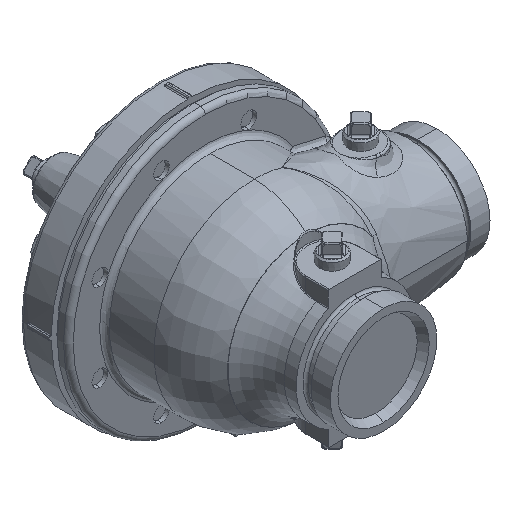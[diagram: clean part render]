
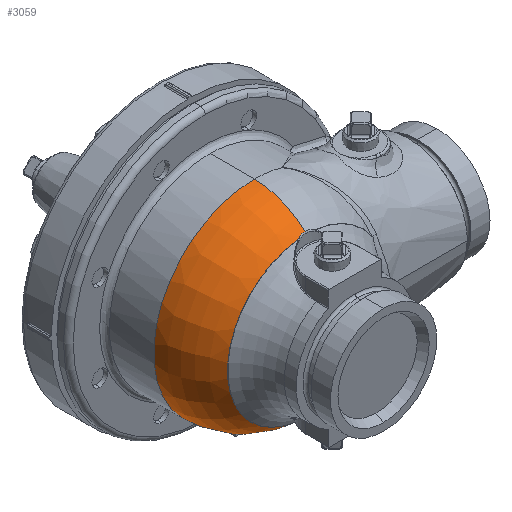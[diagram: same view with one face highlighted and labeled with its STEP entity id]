
A CAD part, isometric view. The second image highlights one B-rep face of the part: STEP entity #3059.
In plain terms, the highlighted toroidal (fillet/blend) face has major radius 22.352 mm and minor radius 61.722 mm.
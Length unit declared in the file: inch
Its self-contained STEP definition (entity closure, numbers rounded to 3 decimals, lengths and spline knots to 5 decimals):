
#308 = VERTEX_POINT ( 'NONE', #9222 ) ;
#1326 = CARTESIAN_POINT ( 'NONE',  ( -0.06233, -1.66826, 2.64616 ) ) ;
#1478 = ORIENTED_EDGE ( 'NONE', *, *, #2518, .F. ) ;
#1566 = ORIENTED_EDGE ( 'NONE', *, *, #9152, .T. ) ;
#1708 = VERTEX_POINT ( 'NONE', #6785 ) ;
#2223 = CARTESIAN_POINT ( 'NONE',  ( 0., 0., 0. ) ) ;
#2350 = CIRCLE ( 'NONE', #16245, 3.31 ) ;
#2518 = EDGE_CURVE ( 'NONE', #1708, #12109, #5257, .T. ) ;
#3059 = ADVANCED_FACE ( 'NONE', ( #22746 ), #15614, .T. ) ;
#3316 = B_SPLINE_CURVE_WITH_KNOTS ( 'NONE', 3,
 ( #5740, #11707, #5987, #13575 ),
 .UNSPECIFIED., .F., .F.,
 ( 4, 4 ),
 ( 0., 0.01022 ),
 .UNSPECIFIED. ) ;
#3497 = ORIENTED_EDGE ( 'NONE', *, *, #14636, .T. ) ;
#3846 = DIRECTION ( 'NONE',  ( 0., 0., 1. ) ) ;
#4485 = CARTESIAN_POINT ( 'NONE',  ( -0.19817, -1.68725, -2.62177 ) ) ;
#5044 = CARTESIAN_POINT ( 'NONE',  ( -0.24655, -1.69982, 2.6055 ) ) ;
#5253 = DIRECTION ( 'NONE',  ( 0., 0., 1. ) ) ;
#5257 = CIRCLE ( 'NONE', #19159, 2.43 ) ;
#5364 = AXIS2_PLACEMENT_3D ( 'NONE', #21753, #18261, #12291 ) ;
#5492 = EDGE_CURVE ( 'NONE', #1708, #308, #16805, .T. ) ;
#5673 = AXIS2_PLACEMENT_3D ( 'NONE', #2223, #17374, #3846 ) ;
#5740 = CARTESIAN_POINT ( 'NONE',  ( -1.02075, 0., -3.14868 ) ) ;
#5976 = AXIS2_PLACEMENT_3D ( 'NONE', #18280, #12683, #20509 ) ;
#5987 = CARTESIAN_POINT ( 'NONE',  ( -1.02076, -0.26798, -3.137 ) ) ;
#6155 = CARTESIAN_POINT ( 'NONE',  ( 0., 0., 0. ) ) ;
#6785 = CARTESIAN_POINT ( 'NONE',  ( 0., -1.66615, -2.64885 ) ) ;
#6909 = CARTESIAN_POINT ( 'NONE',  ( -0.12439, -1.6746, 2.63805 ) ) ;
#7173 = VERTEX_POINT ( 'NONE', #9301 ) ;
#7182 = CIRCLE ( 'NONE', #5976, 2.43 ) ;
#8093 = CARTESIAN_POINT ( 'NONE',  ( -0.29341, -1.7163, -2.58363 ) ) ;
#8658 = CARTESIAN_POINT ( 'NONE',  ( -0.29341, -1.7163, 2.58363 ) ) ;
#8783 = CARTESIAN_POINT ( 'NONE',  ( -0.09962, -1.67143, 2.64211 ) ) ;
#9152 = EDGE_CURVE ( 'NONE', #7173, #12005, #7182, .T. ) ;
#9179 = EDGE_LOOP ( 'NONE', ( #1478, #18331, #12390, #3497, #1566, #24072, #14238, #11306 ) ) ;
#9222 = CARTESIAN_POINT ( 'NONE',  ( -0.29341, -1.7163, -2.58363 ) ) ;
#9301 = CARTESIAN_POINT ( 'NONE',  ( 0., -1.66614, 2.64886 ) ) ;
#9351 = CARTESIAN_POINT ( 'NONE',  ( -0.09985, -1.67042, -2.64344 ) ) ;
#9603 = DIRECTION ( 'NONE',  ( 1., 0., 0. ) ) ;
#10692 = CARTESIAN_POINT ( 'NONE',  ( 0., 0., 3.31 ) ) ;
#10776 = CARTESIAN_POINT ( 'NONE',  ( -0.02495, -1.6664, 2.64853 ) ) ;
#11211 = CARTESIAN_POINT ( 'NONE',  ( 0., -1.66615, -2.64885 ) ) ;
#11306 = ORIENTED_EDGE ( 'NONE', *, *, #12015, .T. ) ;
#11383 = DIRECTION ( 'NONE',  ( 0., 1., 0. ) ) ;
#11707 = CARTESIAN_POINT ( 'NONE',  ( -1.02075, -0.13411, -3.14868 ) ) ;
#11987 = VERTEX_POINT ( 'NONE', #16024 ) ;
#12005 = VERTEX_POINT ( 'NONE', #10692 ) ;
#12015 = EDGE_CURVE ( 'NONE', #17362, #12109, #16088, .T. ) ;
#12109 = VERTEX_POINT ( 'NONE', #13634 ) ;
#12291 = DIRECTION ( 'NONE',  ( -1., 0., 0. ) ) ;
#12390 = ORIENTED_EDGE ( 'NONE', *, *, #16006, .T. ) ;
#12683 = DIRECTION ( 'NONE',  ( -1., 0., 0. ) ) ;
#12721 = CARTESIAN_POINT ( 'NONE',  ( 0., -1.7163, 0. ) ) ;
#12951 = B_SPLINE_CURVE_WITH_KNOTS ( 'NONE', 3,
 ( #8658, #5044, #21601, #6909, #8783, #1326, #16239, #10776, #14499, #15869 ),
 .UNSPECIFIED., .F., .F.,
 ( 4, 2, 2, 2, 4 ),
 ( 0.00994, 0.25445, 0.37671, 0.43784, 0.49896 ),
 .UNSPECIFIED. ) ;
#13575 = CARTESIAN_POINT ( 'NONE',  ( -1.02078, -0.40006, -3.11379 ) ) ;
#13634 = CARTESIAN_POINT ( 'NONE',  ( 0., -0.40006, -3.27684 ) ) ;
#14238 = ORIENTED_EDGE ( 'NONE', *, *, #19900, .T. ) ;
#14499 = CARTESIAN_POINT ( 'NONE',  ( -0.01242, -1.66614, 2.64886 ) ) ;
#14636 = EDGE_CURVE ( 'NONE', #15955, #7173, #12951, .T. ) ;
#15614 = TOROIDAL_SURFACE ( 'NONE', #5673, 0.88, 2.43 ) ;
#15869 = CARTESIAN_POINT ( 'NONE',  ( 0., -1.66614, 2.64886 ) ) ;
#15955 = VERTEX_POINT ( 'NONE', #21693 ) ;
#16006 = EDGE_CURVE ( 'NONE', #308, #15955, #24095, .T. ) ;
#16024 = CARTESIAN_POINT ( 'NONE',  ( -1.02075, 0., -3.14868 ) ) ;
#16088 = CIRCLE ( 'NONE', #5364, 3.27684 ) ;
#16239 = CARTESIAN_POINT ( 'NONE',  ( -0.04988, -1.66746, 2.64718 ) ) ;
#16245 = AXIS2_PLACEMENT_3D ( 'NONE', #6155, #11383, #18965 ) ;
#16805 = B_SPLINE_CURVE_WITH_KNOTS ( 'NONE', 3,
 ( #11211, #18796, #9351, #4485, #23160, #8093 ),
 .UNSPECIFIED., .F., .F.,
 ( 4, 2, 4 ),
 ( 0.50502, 0.75251, 1. ),
 .UNSPECIFIED. ) ;
#17362 = VERTEX_POINT ( 'NONE', #19030 ) ;
#17374 = DIRECTION ( 'NONE',  ( 0., 1., 0. ) ) ;
#18261 = DIRECTION ( 'NONE',  ( 0., -1., 0. ) ) ;
#18280 = CARTESIAN_POINT ( 'NONE',  ( 0., 0., 0.88 ) ) ;
#18331 = ORIENTED_EDGE ( 'NONE', *, *, #5492, .T. ) ;
#18796 = CARTESIAN_POINT ( 'NONE',  ( -0.04992, -1.66617, -2.64884 ) ) ;
#18965 = DIRECTION ( 'NONE',  ( 0., 0., 1. ) ) ;
#19030 = CARTESIAN_POINT ( 'NONE',  ( -1.02078, -0.40006, -3.11379 ) ) ;
#19159 = AXIS2_PLACEMENT_3D ( 'NONE', #22667, #9603, #21166 ) ;
#19900 = EDGE_CURVE ( 'NONE', #11987, #17362, #3316, .T. ) ;
#20509 = DIRECTION ( 'NONE',  ( 0., 0., 1. ) ) ;
#21166 = DIRECTION ( 'NONE',  ( 0., 0., -1. ) ) ;
#21601 = CARTESIAN_POINT ( 'NONE',  ( -0.19813, -1.68723, 2.62179 ) ) ;
#21693 = CARTESIAN_POINT ( 'NONE',  ( -0.29341, -1.7163, 2.58363 ) ) ;
#21753 = CARTESIAN_POINT ( 'NONE',  ( 0., -0.40006, 0. ) ) ;
#22432 = DIRECTION ( 'NONE',  ( 0., 1., 0. ) ) ;
#22667 = CARTESIAN_POINT ( 'NONE',  ( 0., 0., -0.88 ) ) ;
#22746 = FACE_OUTER_BOUND ( 'NONE', #9179, .T. ) ;
#23006 = EDGE_CURVE ( 'NONE', #11987, #12005, #2350, .T. ) ;
#23160 = CARTESIAN_POINT ( 'NONE',  ( -0.24657, -1.69982, -2.60549 ) ) ;
#24072 = ORIENTED_EDGE ( 'NONE', *, *, #23006, .F. ) ;
#24095 = CIRCLE ( 'NONE', #24481, 2.60023 ) ;
#24481 = AXIS2_PLACEMENT_3D ( 'NONE', #12721, #22432, #5253 ) ;
